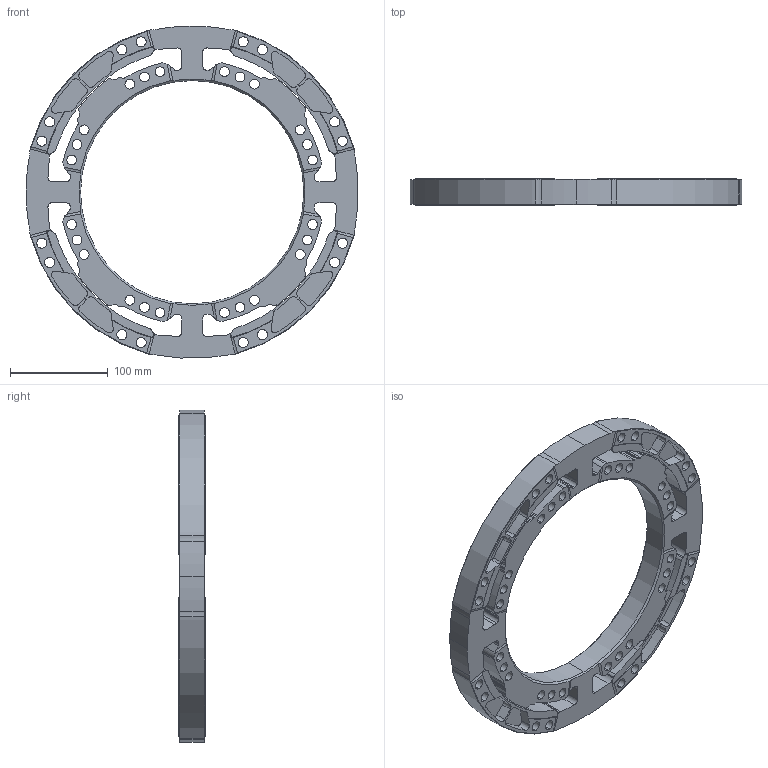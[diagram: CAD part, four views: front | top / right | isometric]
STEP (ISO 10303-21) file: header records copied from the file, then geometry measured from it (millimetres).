
FILE_DESCRIPTION (( 'STEP AP214' ), '1' );
FILE_NAME ('1018258.STEP', '2021-09-28T12:36:42', ( '' ), ( '' ), 'SwSTEP 2.0', 'SolidWorks 2020', '' );
FILE_SCHEMA (( 'AUTOMOTIVE_DESIGN' ));
Length unit declared in the file: inch
Products named in the file (1): 1018258
Bounding box: 339.74 x 26.67 x 339.74 mm (x, y, z)
Volume: 907131.1 mm3; surface area: 228744.4 mm2
Topology: 1 solids, 1 shells, 676 faces, 1984 edges, 1308 vertices
Faces by surface type: cylinder 464, plane 160, cone 28, torus 24
Entity records: 24410 total; most frequent: CARTESIAN_POINT 4707, DIRECTION 4110, ORIENTED_EDGE 3936, EDGE_CURVE 1968, AXIS2_PLACEMENT_3D 1625, VERTEX_POINT 1308, CIRCLE 948, VECTOR 860
